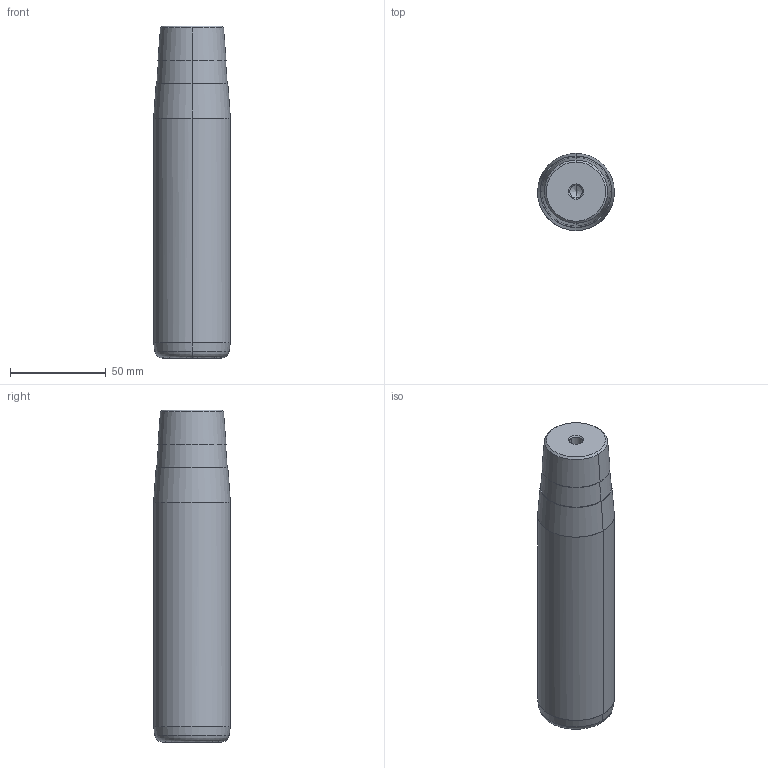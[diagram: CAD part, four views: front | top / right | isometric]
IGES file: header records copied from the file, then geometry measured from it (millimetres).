
Start section: START RECORD GO HERE.
Global section: file name: 722-40x140x173.igs; native system: DASSAULT SYSTEMES CATIA V5 R20 - www.3ds.com; preprocessor: CATIA Version 5 Release 20 ; author: Utente; organization: NB04-ASUS; date: 20210108.163743; units: millimetre
Bounding box: 40 x 40 x 173 mm (x, y, z)
Surface area: 24076.7 mm2 (no closed solid volume)
Topology: 0 solids, 0 shells, 32 faces, 192 edges, 188 vertices
Faces by surface type: revolution 30, plane 2
